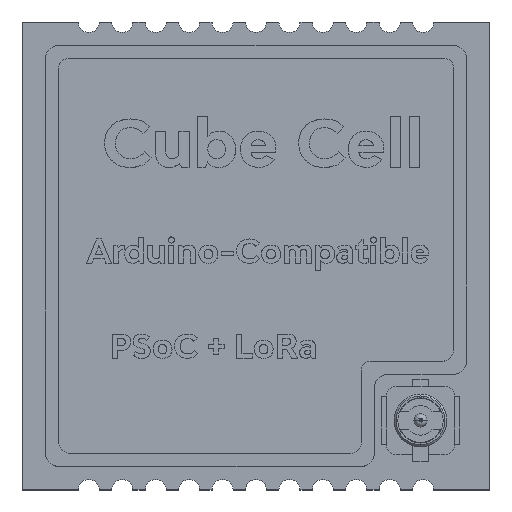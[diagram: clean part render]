
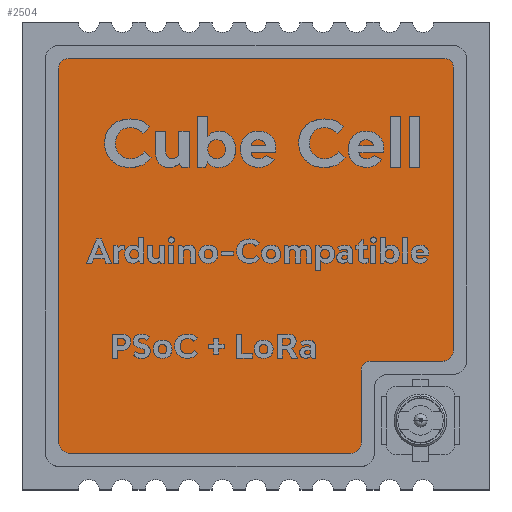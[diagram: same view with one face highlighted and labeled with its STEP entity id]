
A CAD part, top view. The second image highlights one B-rep face of the part: STEP entity #2504.
In plain terms, the highlighted planar face has unit normal (0, 0, 1).
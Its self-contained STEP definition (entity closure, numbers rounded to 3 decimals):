
#2215 = VERTEX_POINT('',#2216);
#2216 = CARTESIAN_POINT('',(-7.126,7.5,3.1));
#2222 = EDGE_CURVE('',#2215,#2223,#2225,.T.);
#2223 = VERTEX_POINT('',#2224);
#2224 = CARTESIAN_POINT('',(-7.5,7.126,3.1));
#2225 = CIRCLE('',#2226,0.374);
#2226 = AXIS2_PLACEMENT_3D('',#2227,#2228,#2229);
#2227 = CARTESIAN_POINT('',(-7.126,7.126,3.1));
#2228 = DIRECTION('',(0.,0.,1.));
#2229 = DIRECTION('',(1.,0.,0.));
#2247 = VERTEX_POINT('',#2248);
#2248 = CARTESIAN_POINT('',(-7.5,-7.05,3.1));
#2254 = EDGE_CURVE('',#2247,#2223,#2255,.T.);
#2255 = LINE('',#2256,#2257);
#2256 = CARTESIAN_POINT('',(-7.5,-7.05,3.1));
#2257 = VECTOR('',#2258,1.);
#2258 = DIRECTION('',(0.,1.,0.));
#2271 = EDGE_CURVE('',#2247,#2272,#2274,.T.);
#2272 = VERTEX_POINT('',#2273);
#2273 = CARTESIAN_POINT('',(-7.05,-7.5,3.1));
#2274 = CIRCLE('',#2275,0.45);
#2275 = AXIS2_PLACEMENT_3D('',#2276,#2277,#2278);
#2276 = CARTESIAN_POINT('',(-7.05,-7.05,3.1));
#2277 = DIRECTION('',(0.,0.,1.));
#2278 = DIRECTION('',(1.,0.,0.));
#2296 = VERTEX_POINT('',#2297);
#2297 = CARTESIAN_POINT('',(3.605,-7.5,3.1));
#2303 = EDGE_CURVE('',#2296,#2272,#2304,.T.);
#2304 = LINE('',#2305,#2306);
#2305 = CARTESIAN_POINT('',(3.605,-7.5,3.1));
#2306 = VECTOR('',#2307,1.);
#2307 = DIRECTION('',(-1.,0.,0.));
#2320 = EDGE_CURVE('',#2296,#2321,#2323,.T.);
#2321 = VERTEX_POINT('',#2322);
#2322 = CARTESIAN_POINT('',(4.,-7.105,3.1));
#2323 = CIRCLE('',#2324,0.395);
#2324 = AXIS2_PLACEMENT_3D('',#2325,#2326,#2327);
#2325 = CARTESIAN_POINT('',(3.605,-7.105,3.1));
#2326 = DIRECTION('',(0.,0.,1.));
#2327 = DIRECTION('',(1.,0.,0.));
#2345 = VERTEX_POINT('',#2346);
#2346 = CARTESIAN_POINT('',(4.,-4.348,3.1));
#2352 = EDGE_CURVE('',#2345,#2321,#2353,.T.);
#2353 = LINE('',#2354,#2355);
#2354 = CARTESIAN_POINT('',(4.,-4.348,3.1));
#2355 = VECTOR('',#2356,1.);
#2356 = DIRECTION('',(0.,-1.,0.));
#2369 = VERTEX_POINT('',#2370);
#2370 = CARTESIAN_POINT('',(4.348,-4.,3.1));
#2376 = EDGE_CURVE('',#2369,#2345,#2377,.T.);
#2377 = CIRCLE('',#2378,0.348);
#2378 = AXIS2_PLACEMENT_3D('',#2379,#2380,#2381);
#2379 = CARTESIAN_POINT('',(4.348,-4.348,3.1));
#2380 = DIRECTION('',(0.,0.,1.));
#2381 = DIRECTION('',(1.,0.,0.));
#2394 = VERTEX_POINT('',#2395);
#2395 = CARTESIAN_POINT('',(7.092,-4.,3.1));
#2401 = EDGE_CURVE('',#2394,#2369,#2402,.T.);
#2402 = LINE('',#2403,#2404);
#2403 = CARTESIAN_POINT('',(7.092,-4.,3.1));
#2404 = VECTOR('',#2405,1.);
#2405 = DIRECTION('',(-1.,0.,0.));
#2418 = EDGE_CURVE('',#2394,#2419,#2421,.T.);
#2419 = VERTEX_POINT('',#2420);
#2420 = CARTESIAN_POINT('',(7.5,-3.592,3.1));
#2421 = CIRCLE('',#2422,0.408);
#2422 = AXIS2_PLACEMENT_3D('',#2423,#2424,#2425);
#2423 = CARTESIAN_POINT('',(7.092,-3.592,3.1));
#2424 = DIRECTION('',(0.,0.,1.));
#2425 = DIRECTION('',(1.,0.,0.));
#2443 = VERTEX_POINT('',#2444);
#2444 = CARTESIAN_POINT('',(7.5,7.171,3.1));
#2450 = EDGE_CURVE('',#2443,#2419,#2451,.T.);
#2451 = LINE('',#2452,#2453);
#2452 = CARTESIAN_POINT('',(7.5,7.171,3.1));
#2453 = VECTOR('',#2454,1.);
#2454 = DIRECTION('',(0.,-1.,0.));
#2467 = EDGE_CURVE('',#2443,#2468,#2470,.T.);
#2468 = VERTEX_POINT('',#2469);
#2469 = CARTESIAN_POINT('',(7.171,7.5,3.1));
#2470 = CIRCLE('',#2471,0.329);
#2471 = AXIS2_PLACEMENT_3D('',#2472,#2473,#2474);
#2472 = CARTESIAN_POINT('',(7.171,7.171,3.1));
#2473 = DIRECTION('',(0.,0.,1.));
#2474 = DIRECTION('',(1.,0.,0.));
#2492 = EDGE_CURVE('',#2215,#2468,#2493,.T.);
#2493 = LINE('',#2494,#2495);
#2494 = CARTESIAN_POINT('',(-7.126,7.5,3.1));
#2495 = VECTOR('',#2496,1.);
#2496 = DIRECTION('',(1.,0.,0.));
#2504 = ADVANCED_FACE('',(#2505),#2519,.T.);
#2505 = FACE_BOUND('',#2506,.F.);
#2506 = EDGE_LOOP('',(#2507,#2508,#2509,#2510,#2511,#2512,#2513,#2514,
    #2515,#2516,#2517,#2518));
#2507 = ORIENTED_EDGE('',*,*,#2492,.T.);
#2508 = ORIENTED_EDGE('',*,*,#2467,.F.);
#2509 = ORIENTED_EDGE('',*,*,#2450,.T.);
#2510 = ORIENTED_EDGE('',*,*,#2418,.F.);
#2511 = ORIENTED_EDGE('',*,*,#2401,.T.);
#2512 = ORIENTED_EDGE('',*,*,#2376,.T.);
#2513 = ORIENTED_EDGE('',*,*,#2352,.T.);
#2514 = ORIENTED_EDGE('',*,*,#2320,.F.);
#2515 = ORIENTED_EDGE('',*,*,#2303,.T.);
#2516 = ORIENTED_EDGE('',*,*,#2271,.F.);
#2517 = ORIENTED_EDGE('',*,*,#2254,.T.);
#2518 = ORIENTED_EDGE('',*,*,#2222,.F.);
#2519 = PLANE('',#2520);
#2520 = AXIS2_PLACEMENT_3D('',#2521,#2522,#2523);
#2521 = CARTESIAN_POINT('',(-0.225,0.239,3.1));
#2522 = DIRECTION('',(0.,0.,1.));
#2523 = DIRECTION('',(0.,1.,0.));
